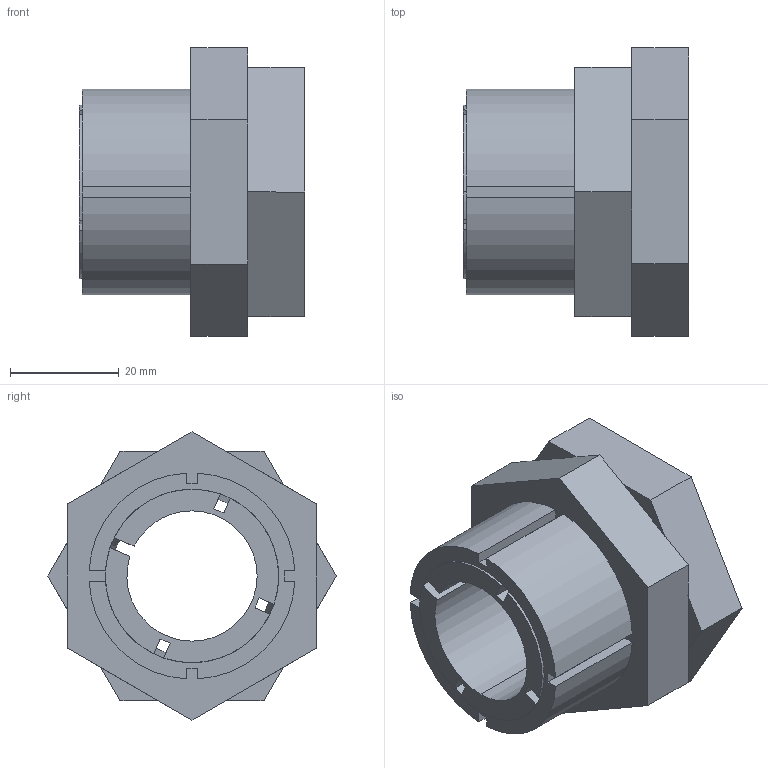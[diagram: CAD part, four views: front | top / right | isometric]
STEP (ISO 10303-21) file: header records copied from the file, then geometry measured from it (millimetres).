
FILE_DESCRIPTION (( 'STEP AP203' ), '1' );
FILE_NAME ('KBS 59 - 24 x 38.STEP', '2015-07-07T21:04:31', ( '' ), ( '' ), 'SwSTEP 2.0', 'SolidWorks 2010', '' );
FILE_SCHEMA (( 'CONFIG_CONTROL_DESIGN' ));
Length unit declared in the file: millimetre
Products named in the file (1): KBS 59 - 24 x 38
Bounding box: 41.5 x 53.12 x 53.12 mm (x, y, z)
Volume: 41350.9 mm3; surface area: 21415.8 mm2
Topology: 3 solids, 3 shells, 78 faces, 204 edges, 132 vertices
Faces by surface type: plane 56, cylinder 14, cone 8
Entity records: 2469 total; most frequent: CARTESIAN_POINT 451, ORIENTED_EDGE 408, DIRECTION 396, EDGE_CURVE 204, LINE 150, VECTOR 150, VERTEX_POINT 132, AXIS2_PLACEMENT_3D 123
